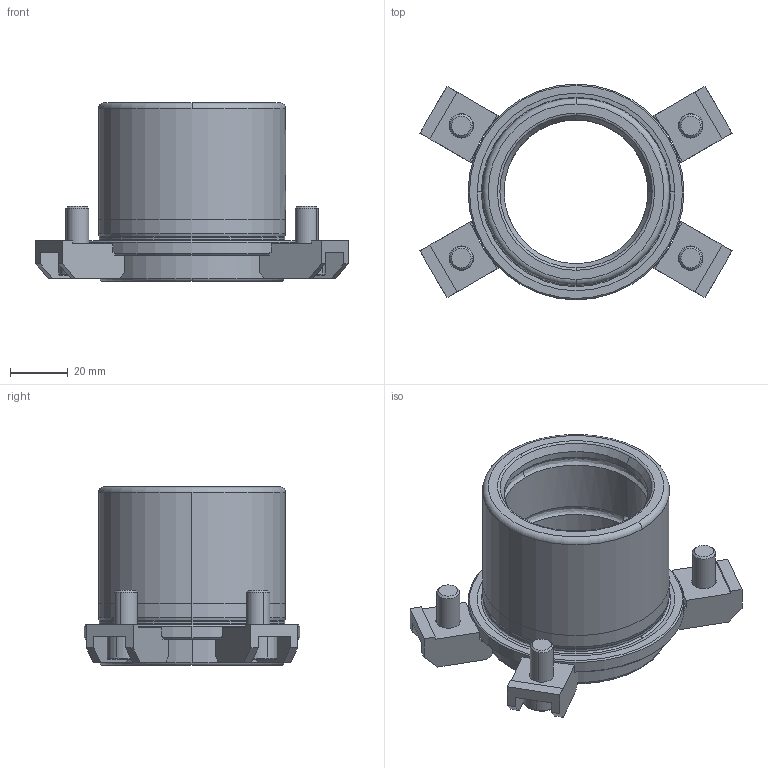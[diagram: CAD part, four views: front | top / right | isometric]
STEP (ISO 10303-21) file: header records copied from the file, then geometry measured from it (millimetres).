
FILE_DESCRIPTION((''),'2;1');
FILE_NAME('B12_050_014.stp','2008-11-04T13:51:50',(''),(''),'Mechanical Desktop 2009','Mechanical Desktop 2009',', , ');
FILE_SCHEMA(('CONFIG_CONTROL_DESIGN'));
Length unit declared in the file: millimetre
Products named in the file (2): Product; blmdl1
Assembly tree (1 placements, depth 2):
  Product
    blmdl1
Bounding box: 108.47 x 75 x 62 mm (x, y, z)
Volume: 101878.8 mm3; surface area: 39132 mm2
Topology: 9 solids, 9 shells, 244 faces, 636 edges, 419 vertices
Faces by surface type: plane 137, cylinder 56, cone 18, bspline 17, torus 16
Entity records: 8634 total; most frequent: CARTESIAN_POINT 2368, DIRECTION 1321, ORIENTED_EDGE 1272, EDGE_CURVE 636, AXIS2_PLACEMENT_3D 465, VERTEX_POINT 419, VECTOR 391, LINE 391
